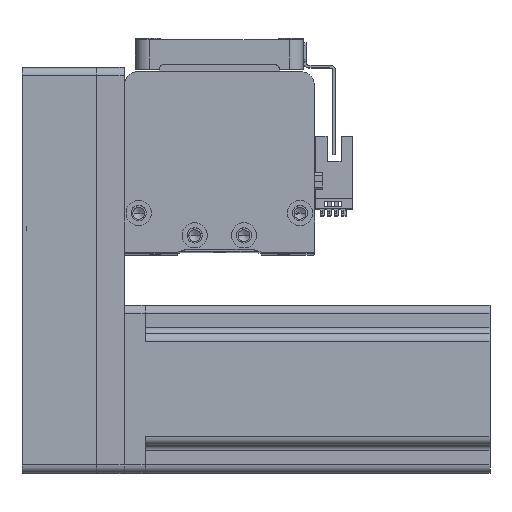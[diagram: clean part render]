
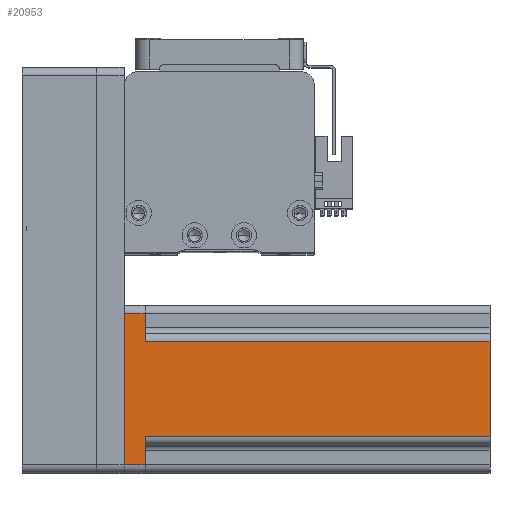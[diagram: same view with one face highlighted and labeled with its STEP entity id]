
A CAD part, top view. The second image highlights one B-rep face of the part: STEP entity #20953.
In plain terms, the highlighted planar face has unit normal (0, 0, 1) as drawn and (0, -1, 0) by its records, which use the part's own axes.
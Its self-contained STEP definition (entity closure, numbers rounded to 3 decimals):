
#443 = AXIS2_PLACEMENT_3D ( 'NONE', #15253, #39122, #18708 ) ;
#629 = LINE ( 'NONE', #11885, #25709 ) ;
#879 = LINE ( 'NONE', #26636, #9959 ) ;
#2032 = DIRECTION ( 'NONE',  ( 1., 0., 0. ) ) ;
#2294 = VECTOR ( 'NONE', #32704, 1000. ) ;
#3222 = EDGE_CURVE ( 'NONE', #38486, #16618, #30493, .T. ) ;
#3258 = VECTOR ( 'NONE', #2032, 1000. ) ;
#3944 = CARTESIAN_POINT ( 'NONE',  ( 17., -30., 130.7 ) ) ;
#6597 = ORIENTED_EDGE ( 'NONE', *, *, #22205, .T. ) ;
#7554 = LINE ( 'NONE', #3944, #16683 ) ;
#8236 = PLANE ( 'NONE',  #443 ) ;
#8258 = ORIENTED_EDGE ( 'NONE', *, *, #22257, .F. ) ;
#8314 = EDGE_CURVE ( 'NONE', #14490, #13440, #20437, .T. ) ;
#8820 = CARTESIAN_POINT ( 'NONE',  ( 30., -30., 130.7 ) ) ;
#9614 = DIRECTION ( 'NONE',  ( 0., 0., -1. ) ) ;
#9959 = VECTOR ( 'NONE', #9614, 1000. ) ;
#10477 = ORIENTED_EDGE ( 'NONE', *, *, #11430, .T. ) ;
#11430 = EDGE_CURVE ( 'NONE', #13834, #38486, #42395, .T. ) ;
#11885 = CARTESIAN_POINT ( 'NONE',  ( 20., -30., 7.5 ) ) ;
#11914 = ORIENTED_EDGE ( 'NONE', *, *, #13165, .T. ) ;
#11943 = CARTESIAN_POINT ( 'NONE',  ( -17., -30., 7.5 ) ) ;
#12167 = CARTESIAN_POINT ( 'NONE',  ( 17., -30., 7.5 ) ) ;
#12338 = VECTOR ( 'NONE', #14195, 1000. ) ;
#12743 = CARTESIAN_POINT ( 'NONE',  ( -27., -30., 7.5 ) ) ;
#13165 = EDGE_CURVE ( 'NONE', #36507, #13834, #35709, .T. ) ;
#13440 = VERTEX_POINT ( 'NONE', #15212 ) ;
#13481 = VERTEX_POINT ( 'NONE', #11943 ) ;
#13834 = VERTEX_POINT ( 'NONE', #21266 ) ;
#14195 = DIRECTION ( 'NONE',  ( 0., 0., 1. ) ) ;
#14490 = VERTEX_POINT ( 'NONE', #19030 ) ;
#14975 = EDGE_LOOP ( 'NONE', ( #20223, #37449, #8258, #11914, #10477, #30757, #6597, #28964 ) ) ;
#15212 = CARTESIAN_POINT ( 'NONE',  ( 17., -30., 130.7 ) ) ;
#15253 = CARTESIAN_POINT ( 'NONE',  ( 30., -30., 130.7 ) ) ;
#15777 = CARTESIAN_POINT ( 'NONE',  ( 27., -30., 0. ) ) ;
#16618 = VERTEX_POINT ( 'NONE', #28518 ) ;
#16683 = VECTOR ( 'NONE', #21112, 1000. ) ;
#17567 = VECTOR ( 'NONE', #39219, 1000. ) ;
#18135 = FACE_OUTER_BOUND ( 'NONE', #14975, .T. ) ;
#18708 = DIRECTION ( 'NONE',  ( -1., 0., 0. ) ) ;
#19030 = CARTESIAN_POINT ( 'NONE',  ( -17., -30., 130.7 ) ) ;
#19055 = CARTESIAN_POINT ( 'NONE',  ( -20., -30., 7.5 ) ) ;
#20223 = ORIENTED_EDGE ( 'NONE', *, *, #8314, .F. ) ;
#20437 = LINE ( 'NONE', #8820, #2294 ) ;
#20953 = ADVANCED_FACE ( 'NONE', ( #18135 ), #8236, .F. ) ;
#21112 = DIRECTION ( 'NONE',  ( 0., 0., 1. ) ) ;
#21266 = CARTESIAN_POINT ( 'NONE',  ( -27., -30., 0. ) ) ;
#22205 = EDGE_CURVE ( 'NONE', #16618, #38447, #629, .T. ) ;
#22257 = EDGE_CURVE ( 'NONE', #36507, #13481, #22498, .T. ) ;
#22498 = LINE ( 'NONE', #19055, #3258 ) ;
#24474 = EDGE_CURVE ( 'NONE', #14490, #13481, #879, .T. ) ;
#25709 = VECTOR ( 'NONE', #28912, 1000. ) ;
#26636 = CARTESIAN_POINT ( 'NONE',  ( -17., -30., 130.7 ) ) ;
#28518 = CARTESIAN_POINT ( 'NONE',  ( 27., -30., 7.5 ) ) ;
#28912 = DIRECTION ( 'NONE',  ( -1., 0., 0. ) ) ;
#28964 = ORIENTED_EDGE ( 'NONE', *, *, #42848, .T. ) ;
#30493 = LINE ( 'NONE', #34662, #12338 ) ;
#30757 = ORIENTED_EDGE ( 'NONE', *, *, #3222, .T. ) ;
#32704 = DIRECTION ( 'NONE',  ( 1., 0., 0. ) ) ;
#34662 = CARTESIAN_POINT ( 'NONE',  ( 27., -30., 130.7 ) ) ;
#35709 = LINE ( 'NONE', #42629, #17567 ) ;
#36507 = VERTEX_POINT ( 'NONE', #12743 ) ;
#37076 = CARTESIAN_POINT ( 'NONE',  ( 30., -30., 0. ) ) ;
#37449 = ORIENTED_EDGE ( 'NONE', *, *, #24474, .T. ) ;
#38447 = VERTEX_POINT ( 'NONE', #12167 ) ;
#38486 = VERTEX_POINT ( 'NONE', #15777 ) ;
#39122 = DIRECTION ( 'NONE',  ( 0., 1., 0. ) ) ;
#39219 = DIRECTION ( 'NONE',  ( 0., 0., -1. ) ) ;
#40294 = VECTOR ( 'NONE', #40466, 1000. ) ;
#40466 = DIRECTION ( 'NONE',  ( 1., 0., 0. ) ) ;
#42395 = LINE ( 'NONE', #37076, #40294 ) ;
#42629 = CARTESIAN_POINT ( 'NONE',  ( -27., -30., 130.7 ) ) ;
#42848 = EDGE_CURVE ( 'NONE', #38447, #13440, #7554, .T. ) ;
